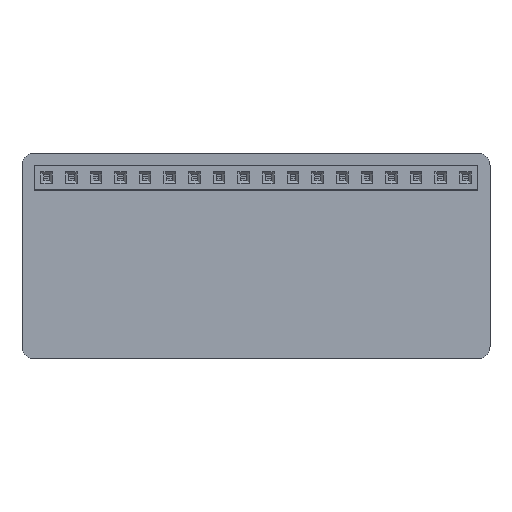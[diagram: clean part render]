
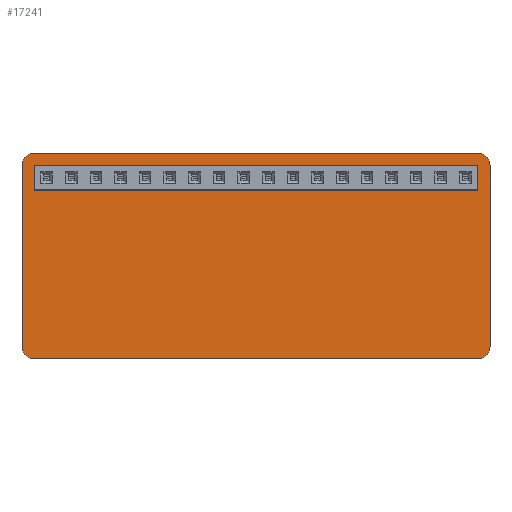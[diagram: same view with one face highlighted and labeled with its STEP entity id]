
A CAD part, top view. The second image highlights one B-rep face of the part: STEP entity #17241.
In plain terms, the highlighted planar face has unit normal (0, 0, 1).
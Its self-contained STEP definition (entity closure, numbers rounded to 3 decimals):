
#16894 = VERTEX_POINT('',#16895);
#16895 = CARTESIAN_POINT('',(131.191,-90.424,0.8));
#16901 = EDGE_CURVE('',#16894,#16902,#16904,.T.);
#16902 = VERTEX_POINT('',#16903);
#16903 = CARTESIAN_POINT('',(132.461,-91.694,0.8));
#16904 = CIRCLE('',#16905,1.27);
#16905 = AXIS2_PLACEMENT_3D('',#16906,#16907,#16908);
#16906 = CARTESIAN_POINT('',(131.191,-91.694,0.8));
#16907 = DIRECTION('',(0.,0.,-1.));
#16908 = DIRECTION('',(0.,1.,0.));
#16936 = VERTEX_POINT('',#16937);
#16937 = CARTESIAN_POINT('',(85.471,-90.424,0.8));
#16943 = EDGE_CURVE('',#16936,#16894,#16944,.T.);
#16944 = LINE('',#16945,#16946);
#16945 = CARTESIAN_POINT('',(85.471,-90.424,0.8));
#16946 = VECTOR('',#16947,1.);
#16947 = DIRECTION('',(1.,0.,0.));
#16965 = EDGE_CURVE('',#16902,#16966,#16968,.T.);
#16966 = VERTEX_POINT('',#16967);
#16967 = CARTESIAN_POINT('',(132.461,-110.363,0.8));
#16968 = LINE('',#16969,#16970);
#16969 = CARTESIAN_POINT('',(132.461,-91.694,0.8));
#16970 = VECTOR('',#16971,1.);
#16971 = DIRECTION('',(0.,-1.,0.));
#17241 = ADVANCED_FACE('',(#17242,#17288,#17299,#17310,#17321,#17332,
    #17343,#17354,#17365,#17376,#17387,#17398,#17409,#17420,#17431,
    #17442,#17453,#17464,#17475),#17486,.T.);
#17242 = FACE_BOUND('',#17243,.T.);
#17243 = EDGE_LOOP('',(#17244,#17245,#17246,#17255,#17263,#17272,#17280,
    #17287));
#17244 = ORIENTED_EDGE('',*,*,#16901,.F.);
#17245 = ORIENTED_EDGE('',*,*,#16943,.F.);
#17246 = ORIENTED_EDGE('',*,*,#17247,.F.);
#17247 = EDGE_CURVE('',#17248,#16936,#17250,.T.);
#17248 = VERTEX_POINT('',#17249);
#17249 = CARTESIAN_POINT('',(84.201,-91.694,0.8));
#17250 = CIRCLE('',#17251,1.27);
#17251 = AXIS2_PLACEMENT_3D('',#17252,#17253,#17254);
#17252 = CARTESIAN_POINT('',(85.471,-91.694,0.8));
#17253 = DIRECTION('',(0.,0.,-1.));
#17254 = DIRECTION('',(-1.,0.,-0.));
#17255 = ORIENTED_EDGE('',*,*,#17256,.F.);
#17256 = EDGE_CURVE('',#17257,#17248,#17259,.T.);
#17257 = VERTEX_POINT('',#17258);
#17258 = CARTESIAN_POINT('',(84.201,-110.363,0.8));
#17259 = LINE('',#17260,#17261);
#17260 = CARTESIAN_POINT('',(84.201,-110.363,0.8));
#17261 = VECTOR('',#17262,1.);
#17262 = DIRECTION('',(0.,1.,0.));
#17263 = ORIENTED_EDGE('',*,*,#17264,.F.);
#17264 = EDGE_CURVE('',#17265,#17257,#17267,.T.);
#17265 = VERTEX_POINT('',#17266);
#17266 = CARTESIAN_POINT('',(85.471,-111.633,0.8));
#17267 = CIRCLE('',#17268,1.27);
#17268 = AXIS2_PLACEMENT_3D('',#17269,#17270,#17271);
#17269 = CARTESIAN_POINT('',(85.471,-110.363,0.8));
#17270 = DIRECTION('',(0.,0.,-1.));
#17271 = DIRECTION('',(0.,-1.,0.));
#17272 = ORIENTED_EDGE('',*,*,#17273,.F.);
#17273 = EDGE_CURVE('',#17274,#17265,#17276,.T.);
#17274 = VERTEX_POINT('',#17275);
#17275 = CARTESIAN_POINT('',(131.191,-111.633,0.8));
#17276 = LINE('',#17277,#17278);
#17277 = CARTESIAN_POINT('',(131.191,-111.633,0.8));
#17278 = VECTOR('',#17279,1.);
#17279 = DIRECTION('',(-1.,0.,0.));
#17280 = ORIENTED_EDGE('',*,*,#17281,.F.);
#17281 = EDGE_CURVE('',#16966,#17274,#17282,.T.);
#17282 = CIRCLE('',#17283,1.27);
#17283 = AXIS2_PLACEMENT_3D('',#17284,#17285,#17286);
#17284 = CARTESIAN_POINT('',(131.191,-110.363,0.8));
#17285 = DIRECTION('',(0.,0.,-1.));
#17286 = DIRECTION('',(1.,0.,0.));
#17287 = ORIENTED_EDGE('',*,*,#16965,.F.);
#17288 = FACE_BOUND('',#17289,.T.);
#17289 = EDGE_LOOP('',(#17290));
#17290 = ORIENTED_EDGE('',*,*,#17291,.T.);
#17291 = EDGE_CURVE('',#17292,#17292,#17294,.T.);
#17292 = VERTEX_POINT('',#17293);
#17293 = CARTESIAN_POINT('',(86.741,-93.464,0.8));
#17294 = CIRCLE('',#17295,0.5);
#17295 = AXIS2_PLACEMENT_3D('',#17296,#17297,#17298);
#17296 = CARTESIAN_POINT('',(86.741,-92.964,0.8));
#17297 = DIRECTION('',(-0.,0.,-1.));
#17298 = DIRECTION('',(-0.,-1.,0.));
#17299 = FACE_BOUND('',#17300,.T.);
#17300 = EDGE_LOOP('',(#17301));
#17301 = ORIENTED_EDGE('',*,*,#17302,.T.);
#17302 = EDGE_CURVE('',#17303,#17303,#17305,.T.);
#17303 = VERTEX_POINT('',#17304);
#17304 = CARTESIAN_POINT('',(89.281,-93.464,0.8));
#17305 = CIRCLE('',#17306,0.5);
#17306 = AXIS2_PLACEMENT_3D('',#17307,#17308,#17309);
#17307 = CARTESIAN_POINT('',(89.281,-92.964,0.8));
#17308 = DIRECTION('',(-0.,0.,-1.));
#17309 = DIRECTION('',(-0.,-1.,0.));
#17310 = FACE_BOUND('',#17311,.T.);
#17311 = EDGE_LOOP('',(#17312));
#17312 = ORIENTED_EDGE('',*,*,#17313,.T.);
#17313 = EDGE_CURVE('',#17314,#17314,#17316,.T.);
#17314 = VERTEX_POINT('',#17315);
#17315 = CARTESIAN_POINT('',(91.821,-93.464,0.8));
#17316 = CIRCLE('',#17317,0.5);
#17317 = AXIS2_PLACEMENT_3D('',#17318,#17319,#17320);
#17318 = CARTESIAN_POINT('',(91.821,-92.964,0.8));
#17319 = DIRECTION('',(-0.,0.,-1.));
#17320 = DIRECTION('',(-0.,-1.,0.));
#17321 = FACE_BOUND('',#17322,.T.);
#17322 = EDGE_LOOP('',(#17323));
#17323 = ORIENTED_EDGE('',*,*,#17324,.T.);
#17324 = EDGE_CURVE('',#17325,#17325,#17327,.T.);
#17325 = VERTEX_POINT('',#17326);
#17326 = CARTESIAN_POINT('',(94.361,-93.464,0.8));
#17327 = CIRCLE('',#17328,0.5);
#17328 = AXIS2_PLACEMENT_3D('',#17329,#17330,#17331);
#17329 = CARTESIAN_POINT('',(94.361,-92.964,0.8));
#17330 = DIRECTION('',(-0.,0.,-1.));
#17331 = DIRECTION('',(-0.,-1.,0.));
#17332 = FACE_BOUND('',#17333,.T.);
#17333 = EDGE_LOOP('',(#17334));
#17334 = ORIENTED_EDGE('',*,*,#17335,.T.);
#17335 = EDGE_CURVE('',#17336,#17336,#17338,.T.);
#17336 = VERTEX_POINT('',#17337);
#17337 = CARTESIAN_POINT('',(96.901,-93.464,0.8));
#17338 = CIRCLE('',#17339,0.5);
#17339 = AXIS2_PLACEMENT_3D('',#17340,#17341,#17342);
#17340 = CARTESIAN_POINT('',(96.901,-92.964,0.8));
#17341 = DIRECTION('',(-0.,0.,-1.));
#17342 = DIRECTION('',(-0.,-1.,0.));
#17343 = FACE_BOUND('',#17344,.T.);
#17344 = EDGE_LOOP('',(#17345));
#17345 = ORIENTED_EDGE('',*,*,#17346,.T.);
#17346 = EDGE_CURVE('',#17347,#17347,#17349,.T.);
#17347 = VERTEX_POINT('',#17348);
#17348 = CARTESIAN_POINT('',(99.441,-93.464,0.8));
#17349 = CIRCLE('',#17350,0.5);
#17350 = AXIS2_PLACEMENT_3D('',#17351,#17352,#17353);
#17351 = CARTESIAN_POINT('',(99.441,-92.964,0.8));
#17352 = DIRECTION('',(-0.,0.,-1.));
#17353 = DIRECTION('',(-0.,-1.,0.));
#17354 = FACE_BOUND('',#17355,.T.);
#17355 = EDGE_LOOP('',(#17356));
#17356 = ORIENTED_EDGE('',*,*,#17357,.T.);
#17357 = EDGE_CURVE('',#17358,#17358,#17360,.T.);
#17358 = VERTEX_POINT('',#17359);
#17359 = CARTESIAN_POINT('',(101.981,-93.464,0.8));
#17360 = CIRCLE('',#17361,0.5);
#17361 = AXIS2_PLACEMENT_3D('',#17362,#17363,#17364);
#17362 = CARTESIAN_POINT('',(101.981,-92.964,0.8));
#17363 = DIRECTION('',(-0.,0.,-1.));
#17364 = DIRECTION('',(-0.,-1.,0.));
#17365 = FACE_BOUND('',#17366,.T.);
#17366 = EDGE_LOOP('',(#17367));
#17367 = ORIENTED_EDGE('',*,*,#17368,.T.);
#17368 = EDGE_CURVE('',#17369,#17369,#17371,.T.);
#17369 = VERTEX_POINT('',#17370);
#17370 = CARTESIAN_POINT('',(104.521,-93.464,0.8));
#17371 = CIRCLE('',#17372,0.5);
#17372 = AXIS2_PLACEMENT_3D('',#17373,#17374,#17375);
#17373 = CARTESIAN_POINT('',(104.521,-92.964,0.8));
#17374 = DIRECTION('',(-0.,0.,-1.));
#17375 = DIRECTION('',(-0.,-1.,0.));
#17376 = FACE_BOUND('',#17377,.T.);
#17377 = EDGE_LOOP('',(#17378));
#17378 = ORIENTED_EDGE('',*,*,#17379,.T.);
#17379 = EDGE_CURVE('',#17380,#17380,#17382,.T.);
#17380 = VERTEX_POINT('',#17381);
#17381 = CARTESIAN_POINT('',(107.061,-93.464,0.8));
#17382 = CIRCLE('',#17383,0.5);
#17383 = AXIS2_PLACEMENT_3D('',#17384,#17385,#17386);
#17384 = CARTESIAN_POINT('',(107.061,-92.964,0.8));
#17385 = DIRECTION('',(-0.,0.,-1.));
#17386 = DIRECTION('',(-0.,-1.,0.));
#17387 = FACE_BOUND('',#17388,.T.);
#17388 = EDGE_LOOP('',(#17389));
#17389 = ORIENTED_EDGE('',*,*,#17390,.T.);
#17390 = EDGE_CURVE('',#17391,#17391,#17393,.T.);
#17391 = VERTEX_POINT('',#17392);
#17392 = CARTESIAN_POINT('',(109.601,-93.464,0.8));
#17393 = CIRCLE('',#17394,0.5);
#17394 = AXIS2_PLACEMENT_3D('',#17395,#17396,#17397);
#17395 = CARTESIAN_POINT('',(109.601,-92.964,0.8));
#17396 = DIRECTION('',(-0.,0.,-1.));
#17397 = DIRECTION('',(-0.,-1.,0.));
#17398 = FACE_BOUND('',#17399,.T.);
#17399 = EDGE_LOOP('',(#17400));
#17400 = ORIENTED_EDGE('',*,*,#17401,.T.);
#17401 = EDGE_CURVE('',#17402,#17402,#17404,.T.);
#17402 = VERTEX_POINT('',#17403);
#17403 = CARTESIAN_POINT('',(112.141,-93.464,0.8));
#17404 = CIRCLE('',#17405,0.5);
#17405 = AXIS2_PLACEMENT_3D('',#17406,#17407,#17408);
#17406 = CARTESIAN_POINT('',(112.141,-92.964,0.8));
#17407 = DIRECTION('',(-0.,0.,-1.));
#17408 = DIRECTION('',(-0.,-1.,0.));
#17409 = FACE_BOUND('',#17410,.T.);
#17410 = EDGE_LOOP('',(#17411));
#17411 = ORIENTED_EDGE('',*,*,#17412,.T.);
#17412 = EDGE_CURVE('',#17413,#17413,#17415,.T.);
#17413 = VERTEX_POINT('',#17414);
#17414 = CARTESIAN_POINT('',(114.681,-93.464,0.8));
#17415 = CIRCLE('',#17416,0.5);
#17416 = AXIS2_PLACEMENT_3D('',#17417,#17418,#17419);
#17417 = CARTESIAN_POINT('',(114.681,-92.964,0.8));
#17418 = DIRECTION('',(-0.,0.,-1.));
#17419 = DIRECTION('',(-0.,-1.,0.));
#17420 = FACE_BOUND('',#17421,.T.);
#17421 = EDGE_LOOP('',(#17422));
#17422 = ORIENTED_EDGE('',*,*,#17423,.T.);
#17423 = EDGE_CURVE('',#17424,#17424,#17426,.T.);
#17424 = VERTEX_POINT('',#17425);
#17425 = CARTESIAN_POINT('',(117.221,-93.464,0.8));
#17426 = CIRCLE('',#17427,0.5);
#17427 = AXIS2_PLACEMENT_3D('',#17428,#17429,#17430);
#17428 = CARTESIAN_POINT('',(117.221,-92.964,0.8));
#17429 = DIRECTION('',(-0.,0.,-1.));
#17430 = DIRECTION('',(-0.,-1.,0.));
#17431 = FACE_BOUND('',#17432,.T.);
#17432 = EDGE_LOOP('',(#17433));
#17433 = ORIENTED_EDGE('',*,*,#17434,.T.);
#17434 = EDGE_CURVE('',#17435,#17435,#17437,.T.);
#17435 = VERTEX_POINT('',#17436);
#17436 = CARTESIAN_POINT('',(119.761,-93.464,0.8));
#17437 = CIRCLE('',#17438,0.5);
#17438 = AXIS2_PLACEMENT_3D('',#17439,#17440,#17441);
#17439 = CARTESIAN_POINT('',(119.761,-92.964,0.8));
#17440 = DIRECTION('',(-0.,0.,-1.));
#17441 = DIRECTION('',(-0.,-1.,0.));
#17442 = FACE_BOUND('',#17443,.T.);
#17443 = EDGE_LOOP('',(#17444));
#17444 = ORIENTED_EDGE('',*,*,#17445,.T.);
#17445 = EDGE_CURVE('',#17446,#17446,#17448,.T.);
#17446 = VERTEX_POINT('',#17447);
#17447 = CARTESIAN_POINT('',(122.301,-93.464,0.8));
#17448 = CIRCLE('',#17449,0.5);
#17449 = AXIS2_PLACEMENT_3D('',#17450,#17451,#17452);
#17450 = CARTESIAN_POINT('',(122.301,-92.964,0.8));
#17451 = DIRECTION('',(-0.,0.,-1.));
#17452 = DIRECTION('',(-0.,-1.,0.));
#17453 = FACE_BOUND('',#17454,.T.);
#17454 = EDGE_LOOP('',(#17455));
#17455 = ORIENTED_EDGE('',*,*,#17456,.T.);
#17456 = EDGE_CURVE('',#17457,#17457,#17459,.T.);
#17457 = VERTEX_POINT('',#17458);
#17458 = CARTESIAN_POINT('',(124.841,-93.464,0.8));
#17459 = CIRCLE('',#17460,0.5);
#17460 = AXIS2_PLACEMENT_3D('',#17461,#17462,#17463);
#17461 = CARTESIAN_POINT('',(124.841,-92.964,0.8));
#17462 = DIRECTION('',(-0.,0.,-1.));
#17463 = DIRECTION('',(-0.,-1.,0.));
#17464 = FACE_BOUND('',#17465,.T.);
#17465 = EDGE_LOOP('',(#17466));
#17466 = ORIENTED_EDGE('',*,*,#17467,.T.);
#17467 = EDGE_CURVE('',#17468,#17468,#17470,.T.);
#17468 = VERTEX_POINT('',#17469);
#17469 = CARTESIAN_POINT('',(127.381,-93.464,0.8));
#17470 = CIRCLE('',#17471,0.5);
#17471 = AXIS2_PLACEMENT_3D('',#17472,#17473,#17474);
#17472 = CARTESIAN_POINT('',(127.381,-92.964,0.8));
#17473 = DIRECTION('',(-0.,0.,-1.));
#17474 = DIRECTION('',(-0.,-1.,0.));
#17475 = FACE_BOUND('',#17476,.T.);
#17476 = EDGE_LOOP('',(#17477));
#17477 = ORIENTED_EDGE('',*,*,#17478,.T.);
#17478 = EDGE_CURVE('',#17479,#17479,#17481,.T.);
#17479 = VERTEX_POINT('',#17480);
#17480 = CARTESIAN_POINT('',(129.921,-93.464,0.8));
#17481 = CIRCLE('',#17482,0.5);
#17482 = AXIS2_PLACEMENT_3D('',#17483,#17484,#17485);
#17483 = CARTESIAN_POINT('',(129.921,-92.964,0.8));
#17484 = DIRECTION('',(-0.,0.,-1.));
#17485 = DIRECTION('',(-0.,-1.,0.));
#17486 = PLANE('',#17487);
#17487 = AXIS2_PLACEMENT_3D('',#17488,#17489,#17490);
#17488 = CARTESIAN_POINT('',(0.,0.,0.8));
#17489 = DIRECTION('',(0.,0.,1.));
#17490 = DIRECTION('',(1.,0.,-0.));
